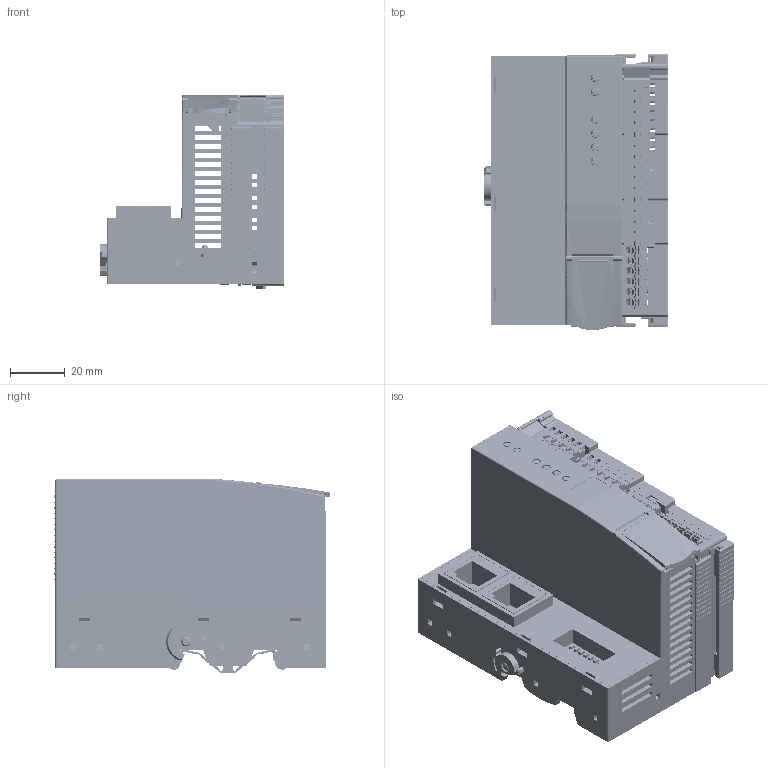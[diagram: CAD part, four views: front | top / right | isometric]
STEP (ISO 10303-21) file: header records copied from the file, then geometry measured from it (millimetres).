
FILE_DESCRIPTION((''),'2;1');
FILE_NAME('IO00_ASM','2023-10-11T19:07:48',('wmy'),(''),'CREO PARAMETRIC BY PTC INC, 2021063','CREO PARAMETRIC BY PTC INC, 2021063','');
FILE_SCHEMA(('CONFIG_CONTROL_DESIGN','SHAPE_APPEARANCE_LAYERS_GROUPS'));
Products named in the file (45): 0003; 0004; 0005; PCB0; 0006; 0007; 20001; 000; 000_ASM; YOUGAIBAN230227; PCB; ZUOGAIBAN230227; SM23008-R2; 0009; 00; PCB00; 0012; 0010_ASM; 0014; 2023041800; _175460001_ASM; _339700001_ASM; 6P000; _211250001_ASM; _163870001_ASM; _49350001_ASM; _86430001_ASM; KMK-381-06_1000_ASM; 2P-0001; 2P-0002; 2P000; 2P000_ASM; _10002; _10003; _10004; _10005; _10001_ASM; ASM0001_ASM; IO00_ASM; KMKF-381-04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
Assembly tree (76 placements, depth 5):
  IO00_ASM
    000_ASM
      0003
      0004
      0005
      PCB0
      PCB0
      0006
      0007
      20001
      000
    IO00_ASM
      YOUGAIBAN230227
      PCB
      ZUOGAIBAN230227
      SM23008-R2
      0009
      0006
      0010_ASM
        00
        PCB00
        0012  x2
      KMK-381-06_1000_ASM
        00  x6
        _175460001_ASM
          0014
          2023041800
        _339700001_ASM
          0014
          2023041800
        6P000
        _211250001_ASM
          2023041800
          0014
        _163870001_ASM
          2023041800
          0014
        _49350001_ASM
          2023041800
          0014
        6P000
        _86430001_ASM
          2023041800
          0014
      2P000_ASM
        2P-0001
        2P-0002
        2P000
      ASM0001_ASM
        _10001_ASM
          _10002  x8
          _10003  x8
          _10004
          _10005
    KMKF-381-04  x2
    KMKF-381-06
Bounding box: 67.25 x 101.13 x 71.39 mm (x, y, z)
Volume: 106471.6 mm3; surface area: 165208.8 mm2
Topology: 63 solids, 63 shells, 12082 faces, 33831 edges, 21899 vertices
Faces by surface type: plane 7523, cylinder 3005, cone 663, torus 602, bspline 190, sphere 93, extrusion 6
Entity records: 360730 total; most frequent: CARTESIAN_POINT 69165, ORIENTED_EDGE 52716, DIRECTION 50145, EDGE_CURVE 26358, VECTOR 18965, LINE 18964, VERTEX_POINT 17060, AXIS2_PLACEMENT_3D 15590
